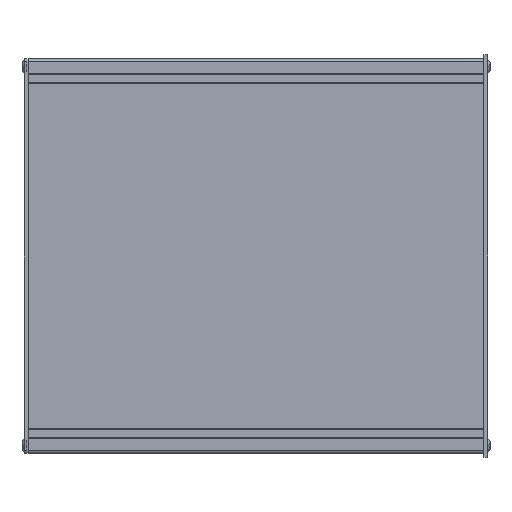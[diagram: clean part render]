
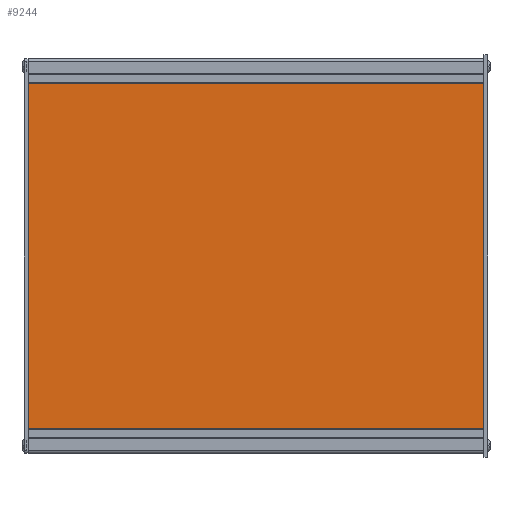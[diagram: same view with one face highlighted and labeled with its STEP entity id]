
A CAD part, left-side view. The second image highlights one B-rep face of the part: STEP entity #9244.
In plain terms, the highlighted planar face has unit normal (-1, 0, 0).
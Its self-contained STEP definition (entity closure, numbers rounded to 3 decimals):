
#1012=PLANE('',#10134);
#1308=FACE_OUTER_BOUND('',#1874,.T.);
#1874=EDGE_LOOP('',(#7037,#7038,#7039,#7040));
#2734=LINE('',#14578,#3444);
#2744=LINE('',#14599,#3454);
#2745=LINE('',#14601,#3455);
#2746=LINE('',#14602,#3456);
#3444=VECTOR('',#11668,10.);
#3454=VECTOR('',#11686,10.);
#3455=VECTOR('',#11687,10.);
#3456=VECTOR('',#11688,10.);
#4530=VERTEX_POINT('',#14571);
#4533=VERTEX_POINT('',#14576);
#4540=VERTEX_POINT('',#14598);
#4541=VERTEX_POINT('',#14600);
#5437=EDGE_CURVE('',#4530,#4533,#2734,.T.);
#5447=EDGE_CURVE('',#4530,#4540,#2744,.T.);
#5448=EDGE_CURVE('',#4541,#4533,#2745,.T.);
#5449=EDGE_CURVE('',#4540,#4541,#2746,.T.);
#7037=ORIENTED_EDGE('',*,*,#5447,.F.);
#7038=ORIENTED_EDGE('',*,*,#5437,.T.);
#7039=ORIENTED_EDGE('',*,*,#5448,.F.);
#7040=ORIENTED_EDGE('',*,*,#5449,.F.);
#9244=ADVANCED_FACE('',(#1308),#1012,.T.);
#10134=AXIS2_PLACEMENT_3D('',#14597,#11684,#11685);
#11668=DIRECTION('',(0.,1.,0.));
#11684=DIRECTION('center_axis',(-1.,0.,0.));
#11685=DIRECTION('ref_axis',(0.,0.,1.));
#11686=DIRECTION('',(0.,0.,-1.));
#11687=DIRECTION('',(0.,0.,1.));
#11688=DIRECTION('',(0.,1.,0.));
#14571=CARTESIAN_POINT('',(239.,0.,69.8));
#14576=CARTESIAN_POINT('',(239.,300.,69.8));
#14578=CARTESIAN_POINT('',(239.,0.,69.8));
#14597=CARTESIAN_POINT('Origin',(239.,0.,-157.9));
#14598=CARTESIAN_POINT('',(239.,0.,-157.9));
#14599=CARTESIAN_POINT('',(239.,0.,-44.05));
#14600=CARTESIAN_POINT('',(239.,300.,-157.9));
#14601=CARTESIAN_POINT('',(239.,300.,-44.05));
#14602=CARTESIAN_POINT('',(239.,0.,-157.9));
